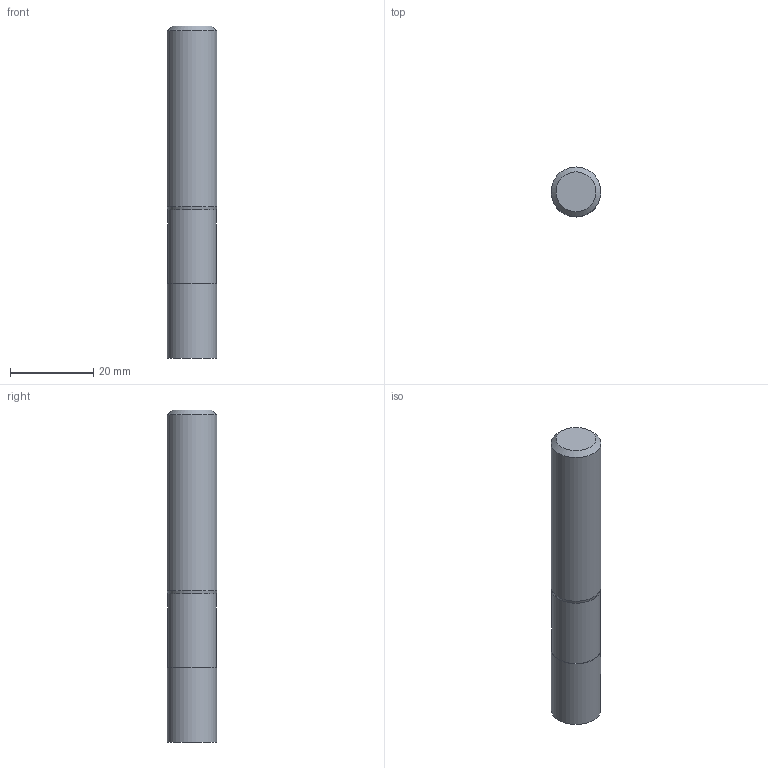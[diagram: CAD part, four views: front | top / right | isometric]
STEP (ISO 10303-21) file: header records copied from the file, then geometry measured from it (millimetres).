
FILE_DESCRIPTION((''),'2;1');
FILE_NAME('C:\Users\nsx150\AppData\Local\Temp\Mastercam 2021\EUJSUNXURU\TEMP.step','2021-04-22T10:30:27',(''),(''),'STEP Write','Mastercam 2021 ... CNC Software, Inc.','');
FILE_SCHEMA(('AUTOMOTIVE_DESIGN'));
Length unit declared in the file: millimetre
Products named in the file (1): None
Bounding box: 12 x 12 x 80 mm (x, y, z)
Volume: 8887.5 mm3; surface area: 3408.5 mm2
Topology: 2 solids, 2 shells, 9 faces, 12 edges, 7 vertices
Faces by surface type: plane 4, cylinder 3, cone 2
Full cylindrical faces by diameter (mm): 11.7 x1, 11.9 x1, 12 x1
Entity records: 211 total; most frequent: DIRECTION 36, CARTESIAN_POINT 25, AXIS2_PLACEMENT_3D 18, ORIENTED_EDGE 14, EDGE_LOOP 14, STYLED_ITEM 12, ADVANCED_FACE 9, FACE_BOUND 8
